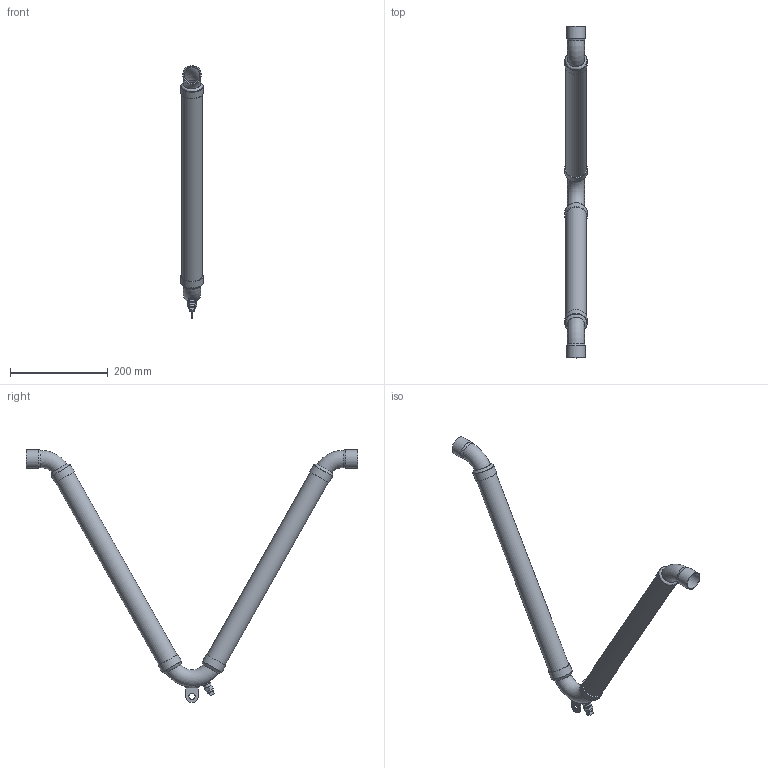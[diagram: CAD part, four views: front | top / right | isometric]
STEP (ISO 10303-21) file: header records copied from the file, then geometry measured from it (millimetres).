
FILE_DESCRIPTION((''),'2;1');
FILE_NAME('C:\REVIT SHARED FILES\STP\VCPSB\VCPSB-1_25.stp','2013-08-08T10:38:49',('rramoutar'),(''),'Autodesk Inventor 2012','Autodesk Inventor 2012','');
FILE_SCHEMA(('AUTOMOTIVE_DESIGN { 1 0 10303 214 1 1 1 1 }'));
Length unit declared in the file: inch
Products named in the file (9): A-31297-3 VCPSB 1.25 inch.iam (NO HOSE); A-31297-3 VCPSB 1.25 inch.iam (NO HOSE)_Welds; A-31127-3 VCPSB 1.25  inch 120 DEGREE ELBOW; A-31302 VCPS & VCPSB 0.5 inch TO 1.5 inch SUPPORT CLIP; A-31301-2 BRASS, CAST PLUG 0.25 inch; A-31301-2 COPPER FEMALE ADAPTER 0.25 inch; A-31119-3 VCPSB 1.25  inch 60 DEGREE ELBOW; A-31011 BRONZE HOSE BRAID COLLAR 1.25 inch; A-31297-3 VCPSB 1.25 PHOSPHOR BRONZE BRAID
Assembly tree (13 placements, depth 2):
  A-31297-3 VCPSB 1.25 inch.iam (NO HOSE)
    A-31297-3 VCPSB 1.25 inch.iam (NO HOSE)_Welds
    A-31127-3 VCPSB 1.25  inch 120 DEGREE ELBOW
    A-31302 VCPS & VCPSB 0.5 inch TO 1.5 inch SUPPORT CLIP
    A-31301-2 BRASS, CAST PLUG 0.25 inch
    A-31301-2 COPPER FEMALE ADAPTER 0.25 inch
    A-31119-3 VCPSB 1.25  inch 60 DEGREE ELBOW  x2
    A-31011 BRONZE HOSE BRAID COLLAR 1.25 inch  x4
    A-31297-3 VCPSB 1.25 PHOSPHOR BRONZE BRAID  x2
Bounding box: 45.95 x 679.45 x 517.63 mm (x, y, z)
Volume: 112235.8 mm3; surface area: 336837.7 mm2
Topology: 18 solids, 18 shells, 121 faces, 261 edges, 169 vertices
Faces by surface type: plane 62, cylinder 25, cone 13, torus 12, bspline 9
Full cylindrical faces by diameter (mm): 9.335 x1, 11.113 x3, 12.7 x1, 13.716 x2, 16.51 x1, 35.001 x2, 38.303 x2, 42.164 x2, 42.774 x6, 45.949 x4
Entity records: 6388 total; most frequent: CARTESIAN_POINT 4132, DIRECTION 400, ORIENTED_EDGE 360, EDGE_CURVE 180, AXIS2_PLACEMENT_3D 172, EDGE_LOOP 145, VERTEX_POINT 131, FACE_OUTER_BOUND 97
